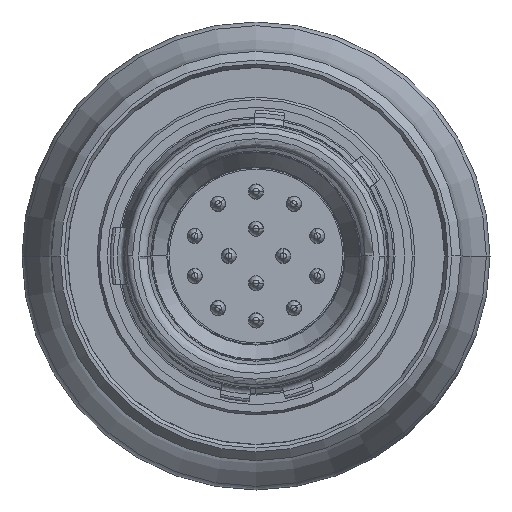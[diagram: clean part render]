
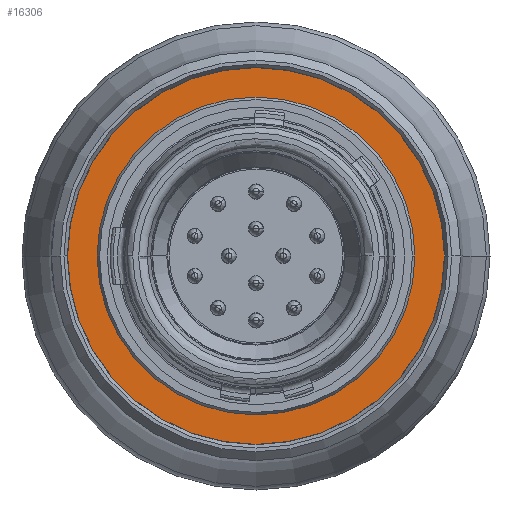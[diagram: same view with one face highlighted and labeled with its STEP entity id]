
A CAD part, left-side view. The second image highlights one B-rep face of the part: STEP entity #16306.
In plain terms, the highlighted planar face has unit normal (-1, 0, 0).
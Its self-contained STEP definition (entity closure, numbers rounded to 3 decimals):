
#1477=CARTESIAN_POINT('',(10.81,0.,0.));
#1478=DIRECTION('',(1.,0.,0.));
#1479=DIRECTION('',(0.,1.,0.));
#1480=AXIS2_PLACEMENT_3D('',#1477,#1478,#1479);
#1482=CARTESIAN_POINT('',(10.81,0.,0.));
#1483=DIRECTION('',(1.,0.,0.));
#1484=DIRECTION('',(0.,-1.,0.));
#1485=AXIS2_PLACEMENT_3D('',#1482,#1483,#1484);
#1487=CARTESIAN_POINT('',(10.81,0.,0.));
#1488=DIRECTION('',(-1.,0.,0.));
#1489=DIRECTION('',(0.,1.,0.));
#1490=AXIS2_PLACEMENT_3D('',#1487,#1488,#1489);
#1492=CARTESIAN_POINT('',(10.81,0.,0.));
#1493=DIRECTION('',(-1.,0.,0.));
#1494=DIRECTION('',(0.,-1.,0.));
#1495=AXIS2_PLACEMENT_3D('',#1492,#1493,#1494);
#11798=CARTESIAN_POINT('',(10.81,5.4,0.));
#11799=VERTEX_POINT('',#11798);
#11800=CARTESIAN_POINT('',(10.81,-5.4,0.));
#11801=VERTEX_POINT('',#11800);
#11804=CARTESIAN_POINT('',(10.81,6.4,0.));
#11805=CARTESIAN_POINT('',(10.81,-6.4,0.));
#11806=VERTEX_POINT('',#11804);
#11807=VERTEX_POINT('',#11805);
#16291=CARTESIAN_POINT('',(10.81,0.,0.));
#16292=DIRECTION('',(-1.,0.,0.));
#16293=DIRECTION('',(0.,1.,0.));
#16294=AXIS2_PLACEMENT_3D('',#16291,#16292,#16293);
#16295=PLANE('',#16294);
#16297=ORIENTED_EDGE('',*,*,#16296,.T.);
#16299=ORIENTED_EDGE('',*,*,#16298,.T.);
#16300=EDGE_LOOP('',(#16297,#16299));
#16301=FACE_OUTER_BOUND('',#16300,.F.);
#16302=ORIENTED_EDGE('',*,*,#16257,.T.);
#16303=ORIENTED_EDGE('',*,*,#16233,.T.);
#16304=EDGE_LOOP('',(#16302,#16303));
#16305=FACE_BOUND('',#16304,.F.);
#1481=CIRCLE('',#1480,6.4);
#1486=CIRCLE('',#1485,6.4);
#1491=CIRCLE('',#1490,5.4);
#1496=CIRCLE('',#1495,5.4);
#16233=EDGE_CURVE('',#11801,#11799,#1496,.T.);
#16257=EDGE_CURVE('',#11799,#11801,#1491,.T.);
#16296=EDGE_CURVE('',#11806,#11807,#1481,.T.);
#16298=EDGE_CURVE('',#11807,#11806,#1486,.T.);
#16306=ADVANCED_FACE('',(#16301,#16305),#16295,.T.);
